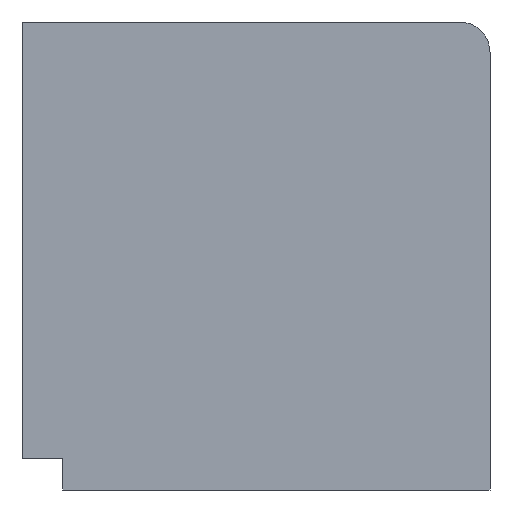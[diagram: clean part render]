
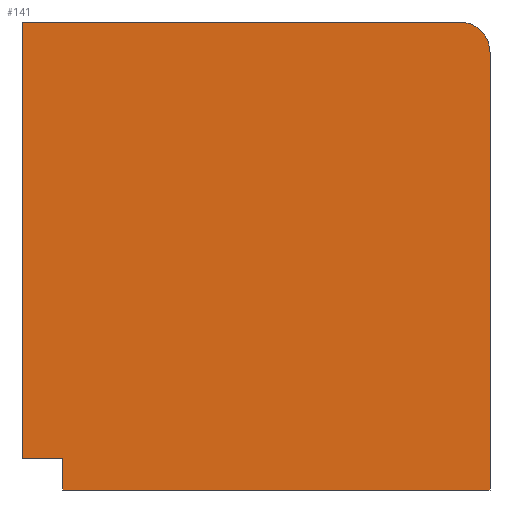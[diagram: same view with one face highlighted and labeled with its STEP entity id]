
A CAD part, front view. The second image highlights one B-rep face of the part: STEP entity #141.
In plain terms, the highlighted planar face has unit normal (0, -1, 0).
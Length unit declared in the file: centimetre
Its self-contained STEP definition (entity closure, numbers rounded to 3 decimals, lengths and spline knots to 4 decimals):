
#37 = LINE ( 'NONE', #855, #109 ) ;
#79 = ORIENTED_EDGE ( 'NONE', *, *, #826, .F. ) ;
#84 = EDGE_CURVE ( 'NONE', #973, #352, #1063, .T. ) ;
#85 = VECTOR ( 'NONE', #713, 100. ) ;
#109 = VECTOR ( 'NONE', #231, 100. ) ;
#126 = EDGE_CURVE ( 'NONE', #314, #210, #848, .T. ) ;
#131 = DIRECTION ( 'NONE',  ( 1., 0., 0. ) ) ;
#141 = ADVANCED_FACE ( 'NONE', ( #1025 ), #568, .F. ) ;
#167 = EDGE_CURVE ( 'NONE', #973, #1051, #37, .T. ) ;
#184 = CARTESIAN_POINT ( 'NONE',  ( 0., 0., 67.7642 ) ) ;
#187 = VERTEX_POINT ( 'NONE', #386 ) ;
#210 = VERTEX_POINT ( 'NONE', #585 ) ;
#231 = DIRECTION ( 'NONE',  ( 0., 0., -1. ) ) ;
#237 = VECTOR ( 'NONE', #999, 100. ) ;
#257 = CARTESIAN_POINT ( 'NONE',  ( 1000., 0., 0. ) ) ;
#275 = ORIENTED_EDGE ( 'NONE', *, *, #735, .T. ) ;
#283 = DIRECTION ( 'NONE',  ( 0., 0., 1. ) ) ;
#289 = CARTESIAN_POINT ( 'NONE',  ( 86.9, 0., 67.7642 ) ) ;
#293 = AXIS2_PLACEMENT_3D ( 'NONE', #914, #726, #283 ) ;
#314 = VERTEX_POINT ( 'NONE', #316 ) ;
#315 = LINE ( 'NONE', #936, #546 ) ;
#316 = CARTESIAN_POINT ( 'NONE',  ( 86.9, 0., 67.7642 ) ) ;
#332 = CARTESIAN_POINT ( 'NONE',  ( 0., 0., 1000. ) ) ;
#352 = VERTEX_POINT ( 'NONE', #670 ) ;
#367 = VECTOR ( 'NONE', #1044, 100. ) ;
#386 = CARTESIAN_POINT ( 'NONE',  ( 0., 0., 1000. ) ) ;
#413 = DIRECTION ( 'NONE',  ( 0., 0., 1. ) ) ;
#447 = LINE ( 'NONE', #641, #237 ) ;
#450 = ORIENTED_EDGE ( 'NONE', *, *, #716, .F. ) ;
#475 = EDGE_CURVE ( 'NONE', #210, #1051, #315, .T. ) ;
#517 = ORIENTED_EDGE ( 'NONE', *, *, #84, .T. ) ;
#528 = LINE ( 'NONE', #888, #85 ) ;
#546 = VECTOR ( 'NONE', #131, 100. ) ;
#548 = LINE ( 'NONE', #289, #792 ) ;
#568 = PLANE ( 'NONE',  #1081 ) ;
#585 = CARTESIAN_POINT ( 'NONE',  ( 86.9, 0., 0. ) ) ;
#641 = CARTESIAN_POINT ( 'NONE',  ( 0., 0., 1000. ) ) ;
#670 = CARTESIAN_POINT ( 'NONE',  ( 935.2057, 0., 1000. ) ) ;
#713 = DIRECTION ( 'NONE',  ( 1., 0., 0. ) ) ;
#716 = EDGE_CURVE ( 'NONE', #187, #352, #528, .T. ) ;
#720 = VERTEX_POINT ( 'NONE', #184 ) ;
#726 = DIRECTION ( 'NONE',  ( 0., -1., 0. ) ) ;
#735 = EDGE_CURVE ( 'NONE', #187, #720, #447, .T. ) ;
#740 = CARTESIAN_POINT ( 'NONE',  ( 1000., 0., 935.2057 ) ) ;
#753 = EDGE_LOOP ( 'NONE', ( #79, #971, #993, #1032, #517, #450, #275 ) ) ;
#792 = VECTOR ( 'NONE', #1005, 100. ) ;
#826 = EDGE_CURVE ( 'NONE', #314, #720, #548, .T. ) ;
#848 = LINE ( 'NONE', #1030, #367 ) ;
#855 = CARTESIAN_POINT ( 'NONE',  ( 1000., 0., 1000. ) ) ;
#888 = CARTESIAN_POINT ( 'NONE',  ( 0., 0., 1000. ) ) ;
#914 = CARTESIAN_POINT ( 'NONE',  ( 935.2057, 0., 935.2057 ) ) ;
#936 = CARTESIAN_POINT ( 'NONE',  ( 0., 0., 0. ) ) ;
#953 = DIRECTION ( 'NONE',  ( 0., 1., 0. ) ) ;
#971 = ORIENTED_EDGE ( 'NONE', *, *, #126, .T. ) ;
#973 = VERTEX_POINT ( 'NONE', #740 ) ;
#993 = ORIENTED_EDGE ( 'NONE', *, *, #475, .T. ) ;
#999 = DIRECTION ( 'NONE',  ( 0., 0., -1. ) ) ;
#1005 = DIRECTION ( 'NONE',  ( -1., 0., 0. ) ) ;
#1025 = FACE_OUTER_BOUND ( 'NONE', #753, .T. ) ;
#1030 = CARTESIAN_POINT ( 'NONE',  ( 86.9, 0., 67.7642 ) ) ;
#1032 = ORIENTED_EDGE ( 'NONE', *, *, #167, .F. ) ;
#1044 = DIRECTION ( 'NONE',  ( 0., 0., -1. ) ) ;
#1051 = VERTEX_POINT ( 'NONE', #257 ) ;
#1063 = CIRCLE ( 'NONE', #293, 64.7943 ) ;
#1081 = AXIS2_PLACEMENT_3D ( 'NONE', #332, #953, #413 ) ;
